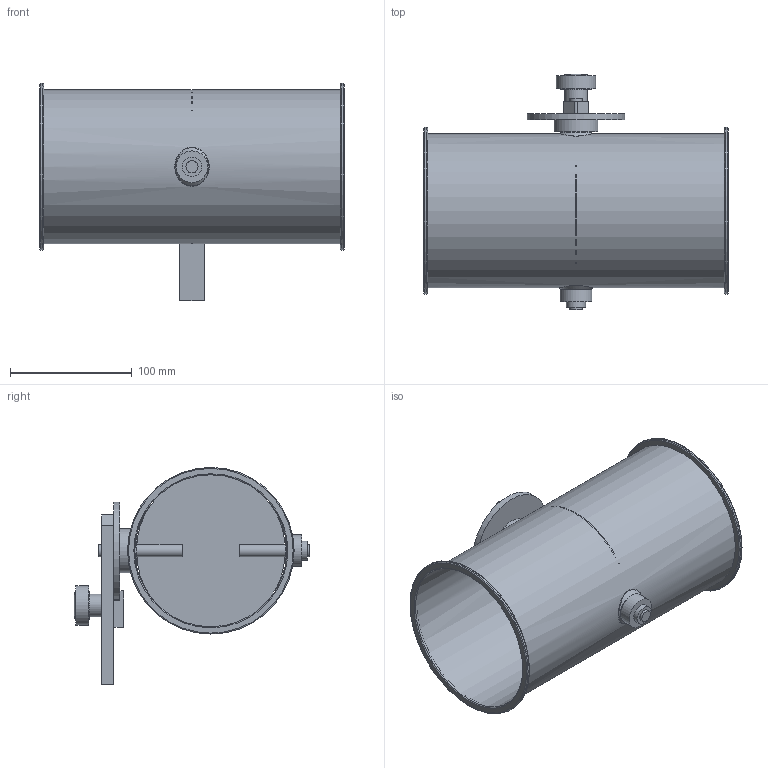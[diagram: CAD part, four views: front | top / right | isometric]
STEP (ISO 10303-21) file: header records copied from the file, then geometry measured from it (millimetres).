
FILE_DESCRIPTION(/* description */ (''),/* implementation_level */ '2;1');
FILE_NAME(/* name */ 'METU_Drosselklappe_Flansch_verzinkt_EA122-80B__125_L250_handbetaetigt.stp',/* time_stamp */ '2022-04-22T14:20:52+02:00',/* author */ (''),/* organization */ (''),/* preprocessor_version */ 'ST-DEVELOPER v11',/* originating_system */ 'SIEMENS UGS NX 6.0',/* authorisation */ '');
FILE_SCHEMA (('CONFIG_CONTROL_DESIGN'));
Length unit declared in the file: millimetre
Products named in the file (1): d.ga332Aq8yx
Bounding box: 250 x 193.97 x 178.5 mm (x, y, z)
Volume: 198289.1 mm3; surface area: 270253.4 mm2
Topology: 12 solids, 12 shells, 100 faces, 204 edges, 139 vertices
Faces by surface type: plane 46, cylinder 34, torus 10, cone 4, bspline 4, sphere 2
Full cylindrical faces by diameter (mm): 4.2 x1, 4.4 x4, 5 x1, 6 x1, 10 x5, 15 x3, 15.85 x2, 16 x2, 18.5 x1, 24 x2, 25 x1, 26 x1, 32.5 x1, 36 x1, 80 x1, 125 x1, 126.6 x1, 137 x2
Entity records: 2934 total; most frequent: CARTESIAN_POINT 981, DIRECTION 400, ORIENTED_EDGE 264, EDGE_LOOP 190, AXIS2_PLACEMENT_3D 179, FACE_BOUND 168, EDGE_CURVE 132, VERTEX_POINT 116
